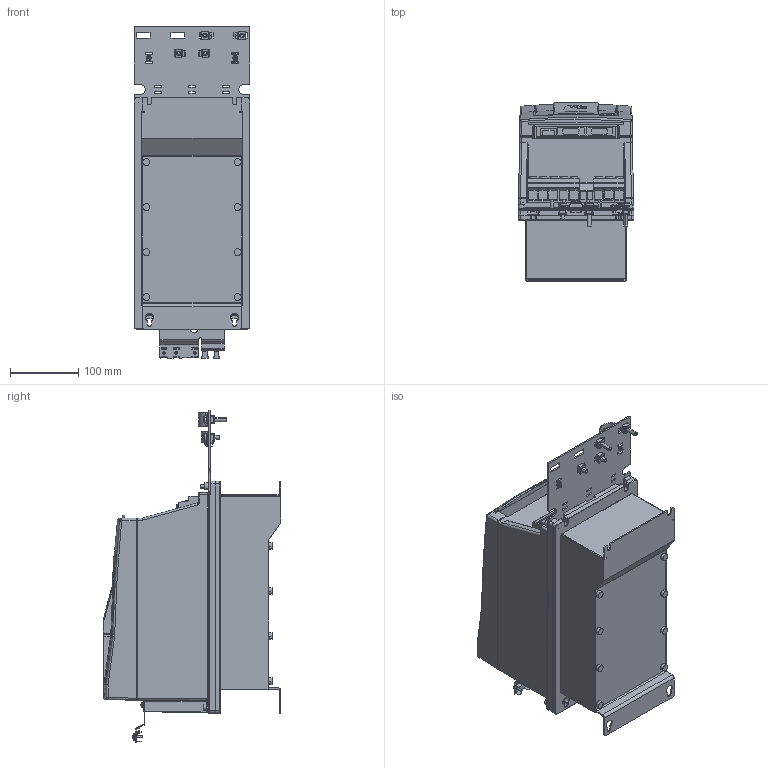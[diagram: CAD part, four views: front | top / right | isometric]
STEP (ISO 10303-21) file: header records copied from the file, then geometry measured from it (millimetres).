
FILE_DESCRIPTION (( 'STEP AP214' ), '1' );
FILE_NAME ('10036505_000.STEP', '2021-01-18T09:20:30', ( '' ), ( '' ), 'SwSTEP 2.0', 'SolidWorks 2019', '' );
FILE_SCHEMA (( 'AUTOMOTIVE_DESIGN' ));
Length unit declared in the file: millimetre
Products named in the file (14): 10051076_000_Kundenmodell; 10036505_000; 10060392_000; 10059764_000_Blindabdeckung (Kundenmodell); 10059762_000_Kundenmodell mit Geberbuchsen; 10040482_000_Kundenmodell; 10036504_000_Leistungsteil TR0 (Kundenmodell); 10060393_000; 10063222_000; 10061030_000_Kundenmodell; 10047114_000_Kundenmodell; 10063309_000; 10059765_000; 10001531_000
Assembly tree (14 placements, depth 4):
  10036505_000
    10036504_000_Leistungsteil TR0 (Kundenmodell)
      10060392_000
    10040482_000_Kundenmodell
      10060393_000
    10051076_000_Kundenmodell
      10059764_000_Blindabdeckung (Kundenmodell)
        10059765_000
      10059762_000_Kundenmodell mit Geberbuchsen
    10061030_000_Kundenmodell
      10063309_000
    10047114_000_Kundenmodell
      10063222_000
    10001531_000  x2
Bounding box: 170 x 260.9 x 486.8 mm (x, y, z)
Volume: 10646899 mm3; surface area: 697087.6 mm2
Topology: 20 solids, 27 shells, 3266 faces, 8589 edges, 5432 vertices
Faces by surface type: plane 1548, cylinder 1070, bspline 355, cone 121, torus 106, sphere 66
Entity records: 113170 total; most frequent: CARTESIAN_POINT 31335, ORIENTED_EDGE 16870, DIRECTION 15358, EDGE_CURVE 8435, VERTEX_POINT 5374, AXIS2_PLACEMENT_3D 5300, LINE 4758, VECTOR 4758
